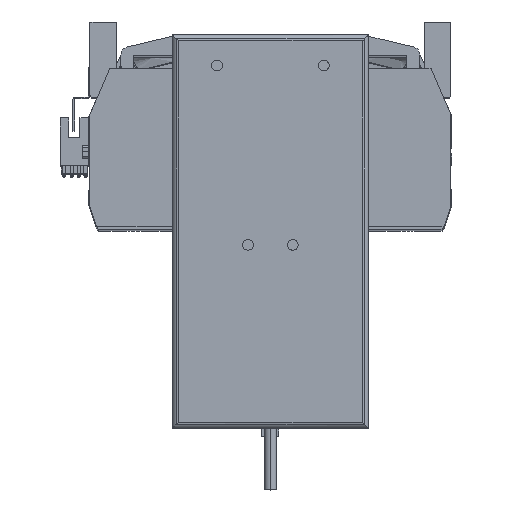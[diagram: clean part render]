
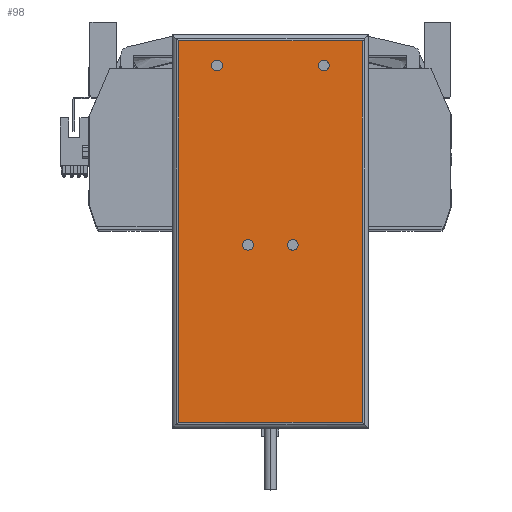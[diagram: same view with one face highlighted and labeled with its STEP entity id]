
A CAD part, top view. The second image highlights one B-rep face of the part: STEP entity #98.
In plain terms, the highlighted planar face has unit normal (0, 0, 1) as drawn and (0, 0, -1) by its records, which use the part's own axes.
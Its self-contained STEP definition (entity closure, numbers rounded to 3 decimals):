
#52 = CARTESIAN_POINT ( 'NONE',  ( -46., -89.25, 0. ) ) ;
#98 = ADVANCED_FACE ( 'NONE', ( #22901, #5689, #36143, #8007, #1033 ), #10191, .F. ) ;
#599 = DIRECTION ( 'NONE',  ( -1., 0., 0. ) ) ;
#703 = AXIS2_PLACEMENT_3D ( 'NONE', #36370, #13885, #39580 ) ;
#1033 = FACE_BOUND ( 'NONE', #46357, .T. ) ;
#1036 = EDGE_CURVE ( 'NONE', #4901, #27133, #34347, .T. ) ;
#3524 = CARTESIAN_POINT ( 'NONE',  ( -27.5, 77.75, 0. ) ) ;
#3579 = CARTESIAN_POINT ( 'NONE',  ( -22.5, 77.75, 0. ) ) ;
#3859 = DIRECTION ( 'NONE',  ( 0., 0., -1. ) ) ;
#4450 = AXIS2_PLACEMENT_3D ( 'NONE', #22975, #44986, #22652 ) ;
#4632 = CARTESIAN_POINT ( 'NONE',  ( 13., -6.25, 0. ) ) ;
#4780 = DIRECTION ( 'NONE',  ( -1., 0., 0. ) ) ;
#4901 = VERTEX_POINT ( 'NONE', #40707 ) ;
#5172 = DIRECTION ( 'NONE',  ( 0., 0., -1. ) ) ;
#5689 = FACE_BOUND ( 'NONE', #45001, .T. ) ;
#6635 = VERTEX_POINT ( 'NONE', #39628 ) ;
#7059 = ORIENTED_EDGE ( 'NONE', *, *, #26099, .F. ) ;
#7203 = CIRCLE ( 'NONE', #19846, 2.5 ) ;
#8007 = FACE_BOUND ( 'NONE', #37297, .T. ) ;
#9007 = EDGE_LOOP ( 'NONE', ( #15966, #19078, #36245, #38671 ) ) ;
#9119 = DIRECTION ( 'NONE',  ( 1., 0., 0. ) ) ;
#10191 = PLANE ( 'NONE',  #703 ) ;
#10287 = VERTEX_POINT ( 'NONE', #10881 ) ;
#10881 = CARTESIAN_POINT ( 'NONE',  ( 8., -6.25, 0. ) ) ;
#10997 = VECTOR ( 'NONE', #9119, 1000. ) ;
#11934 = DIRECTION ( 'NONE',  ( -1., 0., 0. ) ) ;
#12084 = DIRECTION ( 'NONE',  ( 0., 0., -1. ) ) ;
#12483 = ORIENTED_EDGE ( 'NONE', *, *, #37251, .F. ) ;
#12574 = VERTEX_POINT ( 'NONE', #29080 ) ;
#12638 = VERTEX_POINT ( 'NONE', #3579 ) ;
#13439 = EDGE_LOOP ( 'NONE', ( #18465, #27866 ) ) ;
#13885 = DIRECTION ( 'NONE',  ( 0., 0., 1. ) ) ;
#14260 = DIRECTION ( 'NONE',  ( -1., 0., 0. ) ) ;
#14367 = CARTESIAN_POINT ( 'NONE',  ( 43., 89.25, 0. ) ) ;
#15524 = VERTEX_POINT ( 'NONE', #3524 ) ;
#15966 = ORIENTED_EDGE ( 'NONE', *, *, #46840, .T. ) ;
#15998 = EDGE_CURVE ( 'NONE', #12574, #45563, #33876, .T. ) ;
#18124 = DIRECTION ( 'NONE',  ( 0., 0., -1. ) ) ;
#18465 = ORIENTED_EDGE ( 'NONE', *, *, #18807, .F. ) ;
#18807 = EDGE_CURVE ( 'NONE', #10287, #21498, #19325, .T. ) ;
#18821 = LINE ( 'NONE', #33873, #40673 ) ;
#19027 = LINE ( 'NONE', #38836, #10997 ) ;
#19078 = ORIENTED_EDGE ( 'NONE', *, *, #15998, .T. ) ;
#19325 = CIRCLE ( 'NONE', #4450, 2.5 ) ;
#19530 = AXIS2_PLACEMENT_3D ( 'NONE', #30032, #3859, #599 ) ;
#19846 = AXIS2_PLACEMENT_3D ( 'NONE', #45153, #5172, #30695 ) ;
#19910 = CARTESIAN_POINT ( 'NONE',  ( -10.5, -6.25, 0. ) ) ;
#20202 = EDGE_CURVE ( 'NONE', #12638, #15524, #7203, .T. ) ;
#20711 = EDGE_CURVE ( 'NONE', #44733, #6635, #26700, .T. ) ;
#21498 = VERTEX_POINT ( 'NONE', #4632 ) ;
#22652 = DIRECTION ( 'NONE',  ( -1., 0., 0. ) ) ;
#22898 = DIRECTION ( 'NONE',  ( 0., 0., -1. ) ) ;
#22901 = FACE_OUTER_BOUND ( 'NONE', #9007, .T. ) ;
#22975 = CARTESIAN_POINT ( 'NONE',  ( 10.5, -6.25, 0. ) ) ;
#24201 = CIRCLE ( 'NONE', #45797, 2.5 ) ;
#25210 = LINE ( 'NONE', #25320, #44166 ) ;
#25320 = CARTESIAN_POINT ( 'NONE',  ( 43., -92.25, 0. ) ) ;
#26057 = CARTESIAN_POINT ( 'NONE',  ( -43., 89.25, 0. ) ) ;
#26093 = ORIENTED_EDGE ( 'NONE', *, *, #20202, .F. ) ;
#26099 = EDGE_CURVE ( 'NONE', #6635, #44733, #47248, .T. ) ;
#26660 = DIRECTION ( 'NONE',  ( -1., 0., 0. ) ) ;
#26700 = CIRCLE ( 'NONE', #33054, 2.5 ) ;
#27133 = VERTEX_POINT ( 'NONE', #29886 ) ;
#27581 = EDGE_CURVE ( 'NONE', #15524, #12638, #45996, .T. ) ;
#27866 = ORIENTED_EDGE ( 'NONE', *, *, #37663, .F. ) ;
#28853 = CARTESIAN_POINT ( 'NONE',  ( -25., 77.75, 0. ) ) ;
#28896 = AXIS2_PLACEMENT_3D ( 'NONE', #37628, #12084, #11934 ) ;
#29080 = CARTESIAN_POINT ( 'NONE',  ( 43., -89.25, 0. ) ) ;
#29417 = ORIENTED_EDGE ( 'NONE', *, *, #27581, .F. ) ;
#29886 = CARTESIAN_POINT ( 'NONE',  ( -13., -6.25, 0. ) ) ;
#30032 = CARTESIAN_POINT ( 'NONE',  ( -10.5, -6.25, 0. ) ) ;
#30152 = CARTESIAN_POINT ( 'NONE',  ( 10.5, -6.25, 0. ) ) ;
#30434 = DIRECTION ( 'NONE',  ( -1., 0., 0. ) ) ;
#30559 = VERTEX_POINT ( 'NONE', #26057 ) ;
#30695 = DIRECTION ( 'NONE',  ( -1., 0., 0. ) ) ;
#30815 = AXIS2_PLACEMENT_3D ( 'NONE', #28853, #18124, #14260 ) ;
#31876 = EDGE_CURVE ( 'NONE', #45563, #30559, #18821, .T. ) ;
#33054 = AXIS2_PLACEMENT_3D ( 'NONE', #37518, #34122, #30434 ) ;
#33873 = CARTESIAN_POINT ( 'NONE',  ( -43., -92.25, 0. ) ) ;
#33876 = LINE ( 'NONE', #52, #46474 ) ;
#34122 = DIRECTION ( 'NONE',  ( 0., 0., -1. ) ) ;
#34347 = CIRCLE ( 'NONE', #19530, 2.5 ) ;
#36143 = FACE_BOUND ( 'NONE', #13439, .T. ) ;
#36245 = ORIENTED_EDGE ( 'NONE', *, *, #31876, .T. ) ;
#36370 = CARTESIAN_POINT ( 'NONE',  ( -46., -92.25, 0. ) ) ;
#37245 = ORIENTED_EDGE ( 'NONE', *, *, #1036, .F. ) ;
#37251 = EDGE_CURVE ( 'NONE', #27133, #4901, #24201, .T. ) ;
#37297 = EDGE_LOOP ( 'NONE', ( #29417, #26093 ) ) ;
#37518 = CARTESIAN_POINT ( 'NONE',  ( 25., 77.75, 0. ) ) ;
#37536 = AXIS2_PLACEMENT_3D ( 'NONE', #30152, #22898, #4780 ) ;
#37628 = CARTESIAN_POINT ( 'NONE',  ( 25., 77.75, 0. ) ) ;
#37663 = EDGE_CURVE ( 'NONE', #21498, #10287, #39702, .T. ) ;
#37815 = EDGE_CURVE ( 'NONE', #30559, #38404, #19027, .T. ) ;
#38404 = VERTEX_POINT ( 'NONE', #14367 ) ;
#38671 = ORIENTED_EDGE ( 'NONE', *, *, #37815, .T. ) ;
#38836 = CARTESIAN_POINT ( 'NONE',  ( -46., 89.25, 0. ) ) ;
#39580 = DIRECTION ( 'NONE',  ( 1., 0., 0. ) ) ;
#39628 = CARTESIAN_POINT ( 'NONE',  ( 27.5, 77.75, 0. ) ) ;
#39702 = CIRCLE ( 'NONE', #37536, 2.5 ) ;
#39956 = DIRECTION ( 'NONE',  ( -1., 0., 0. ) ) ;
#40673 = VECTOR ( 'NONE', #41118, 1000. ) ;
#40707 = CARTESIAN_POINT ( 'NONE',  ( -8., -6.25, 0. ) ) ;
#41118 = DIRECTION ( 'NONE',  ( 0., 1., 0. ) ) ;
#41717 = CARTESIAN_POINT ( 'NONE',  ( -43., -89.25, 0. ) ) ;
#41780 = DIRECTION ( 'NONE',  ( 0., 0., -1. ) ) ;
#41986 = CARTESIAN_POINT ( 'NONE',  ( 22.5, 77.75, 0. ) ) ;
#44125 = ORIENTED_EDGE ( 'NONE', *, *, #20711, .F. ) ;
#44166 = VECTOR ( 'NONE', #47496, 1000. ) ;
#44733 = VERTEX_POINT ( 'NONE', #41986 ) ;
#44986 = DIRECTION ( 'NONE',  ( 0., 0., -1. ) ) ;
#45001 = EDGE_LOOP ( 'NONE', ( #12483, #37245 ) ) ;
#45153 = CARTESIAN_POINT ( 'NONE',  ( -25., 77.75, 0. ) ) ;
#45563 = VERTEX_POINT ( 'NONE', #41717 ) ;
#45797 = AXIS2_PLACEMENT_3D ( 'NONE', #19910, #41780, #26660 ) ;
#45996 = CIRCLE ( 'NONE', #30815, 2.5 ) ;
#46357 = EDGE_LOOP ( 'NONE', ( #44125, #7059 ) ) ;
#46474 = VECTOR ( 'NONE', #39956, 1000. ) ;
#46840 = EDGE_CURVE ( 'NONE', #38404, #12574, #25210, .T. ) ;
#47248 = CIRCLE ( 'NONE', #28896, 2.5 ) ;
#47496 = DIRECTION ( 'NONE',  ( 0., -1., 0. ) ) ;
